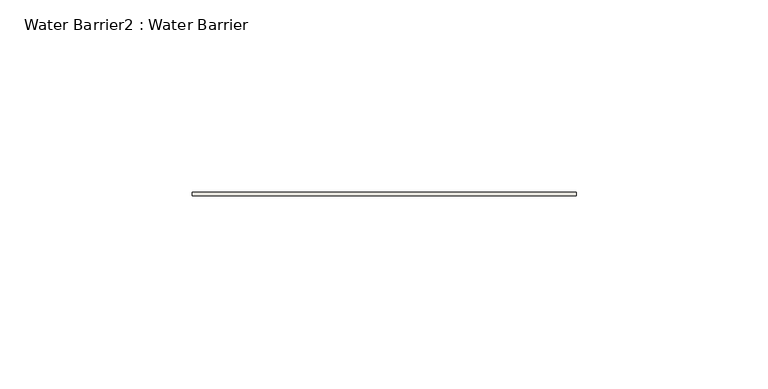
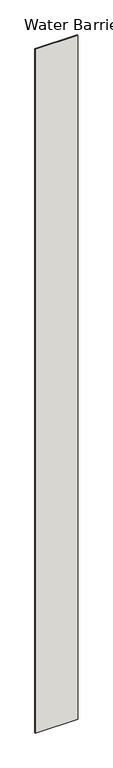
"""IFC4 building model written with IfcOpenShell, lengths in millimetres: wall geometry, Water Barrier2 : Water Barrier."""

import ifcopenshell
import ifcopenshell.guid

model = None  # the IFC model being written
_history = None  # IfcOwnerHistory: only IFC2X3 demands one
_inside = {}  # id of a spatial element -> (the spatial element, [elements in it])
_under = {}  # id of a project, library or spatial element -> (it, [spatial elements below it])
_declared = {}  # id of a project -> (the project, [libraries it declares])
_typed = {}  # id of a type object -> (the type object, [elements of that type])
_made_of = {}  # id of a material, layer set ... -> (it, [elements and type objects made of it])


def new_model(schema):
    """Start an empty IFC model of exactly this schema.

    Asked for "IFC4X3", IfcOpenShell would pick the latest addendum, in which some entities
    have other attributes; the version numbers below select the first issue.
    IFC2X3 requires an IfcOwnerHistory on every rooted entity: one is made here for all.
    """
    global model, _history
    if schema == "IFC4X3":
        model = ifcopenshell.file(schema_version=(4, 3, 0, 0))
    else:
        model = ifcopenshell.file(schema=schema)
    _inside.clear()
    _under.clear()
    _declared.clear()
    _typed.clear()
    _made_of.clear()
    _history = None
    if model.schema == "IFC2X3":
        org = make("IfcOrganization", Name="unknown")
        user = make(
            "IfcPersonAndOrganization",
            ThePerson=make("IfcPerson", FamilyName="unknown"),
            TheOrganization=org,
        )
        app = make(
            "IfcApplication",
            ApplicationDeveloper=org,
            Version="unknown",
            ApplicationFullName="unknown",
            ApplicationIdentifier="unknown",
        )
        _history = make(
            "IfcOwnerHistory",
            OwningUser=user,
            OwningApplication=app,
            ChangeAction="ADDED",
            CreationDate=0,
        )
    return model


def make(cls, **values):
    """One entity of the class cls with the attributes given. An attribute that is None is left unset."""
    return model.create_entity(
        cls, **{name: value for name, value in values.items() if value is not None}
    )


def rooted(cls, **values):
    """An entity with a GlobalId (a new one), such as an element, a storey or a relation."""
    return make(cls, GlobalId=ifcopenshell.guid.new(), OwnerHistory=_history, **values)


def si_unit(unit_type, name, prefix=None):
    """IfcSIUnit, for example si_unit("LENGTHUNIT", "METRE", prefix="MILLI")."""
    return make("IfcSIUnit", UnitType=unit_type, Prefix=prefix, Name=name)


def assignment(units):
    """IfcUnitAssignment: the units of a project."""
    return None if units is None else make("IfcUnitAssignment", Units=units)


def point(xyz):
    """IfcCartesianPoint."""
    return None if xyz is None else make("IfcCartesianPoint", Coordinates=xyz)


def direction(xyz):
    """IfcDirection."""
    return None if xyz is None else make("IfcDirection", DirectionRatios=xyz)


def frame(location, z_axis=None, x_axis=None):
    """IfcAxis2Placement3D, a coordinate frame: its origin and axes. An axis left out is left unset."""
    return make(
        "IfcAxis2Placement3D",
        Location=point(location),
        Axis=direction(z_axis),
        RefDirection=direction(x_axis),
    )


def origin():
    """The frame at (0, 0, 0) with its axes left unset."""
    return frame((0.0, 0.0, 0.0))


def origin_with_axes():
    """The frame at (0, 0, 0) with the z axis (0, 0, 1) and the x axis (1, 0, 0) written out."""
    return frame((0.0, 0.0, 0.0), z_axis=(0.0, 0.0, 1.0), x_axis=(1.0, 0.0, 0.0))


def place(relative_to, where):
    """IfcLocalPlacement: puts the frame where relative to a parent placement (None: the world)."""
    return make(
        "IfcLocalPlacement", PlacementRelTo=relative_to, RelativePlacement=where
    )


def context(
    kind, dimensions, precision=None, world=None, true_north=None, identifier=None
):
    """IfcGeometricRepresentationContext, for example the 3D "Model" context."""
    return make(
        "IfcGeometricRepresentationContext",
        ContextIdentifier=identifier,
        ContextType=kind,
        CoordinateSpaceDimension=dimensions,
        Precision=precision,
        WorldCoordinateSystem=world,
        TrueNorth=true_north,
    )


def project(units=None, contexts=None):
    """IfcProject with its units and contexts."""
    return rooted(
        "IfcProject",
        Name="project",
        RepresentationContexts=contexts,
        UnitsInContext=assignment(units),
    )


def spatial(cls, under=None, at=None, **own):
    """A site, building, storey or space (cls), placed at a placement, below another one or the project."""
    s = rooted(cls, ObjectPlacement=at, **own)
    if under is not None:
        _under.setdefault(under.id(), (under, []))[1].append(s)
    return s


def polyline(points):
    """IfcPolyline through the points."""
    return make("IfcPolyline", Points=[point(p) for p in points])


def outline(outer, holes=None, kind="AREA"):
    """IfcArbitraryClosedProfileDef: a profile drawn as a closed curve; with holes, ...WithVoids."""
    if holes is None:
        return make("IfcArbitraryClosedProfileDef", ProfileType=kind, OuterCurve=outer)
    return make(
        "IfcArbitraryProfileDefWithVoids",
        ProfileType=kind,
        OuterCurve=outer,
        InnerCurves=holes,
    )


def extrude(swept, where, along, depth):
    """IfcExtrudedAreaSolid: the profile swept, set in the frame where, extruded along a direction by depth."""
    return make(
        "IfcExtrudedAreaSolid",
        SweptArea=swept,
        Position=where,
        ExtrudedDirection=direction(along),
        Depth=depth,
    )


def shape(context_of_items, identifier, shape_type, items):
    """IfcShapeRepresentation: the items that make up one representation, for example the "Body"."""
    return make(
        "IfcShapeRepresentation",
        ContextOfItems=context_of_items,
        RepresentationIdentifier=identifier,
        RepresentationType=shape_type,
        Items=items,
    )


def source(mapping_origin, context_of_items, identifier, shape_type, items):
    """IfcRepresentationMap: a shape defined once, which mapped items show again and again."""
    return make(
        "IfcRepresentationMap",
        MappingOrigin=mapping_origin,
        MappedRepresentation=shape(context_of_items, identifier, shape_type, items),
    )


def transform(
    local_origin,
    x_axis=None,
    y_axis=None,
    z_axis=None,
    scale=None,
    scale2=None,
    scale3=None,
    uniform=True,
):
    """IfcCartesianTransformationOperator3D, or its non-uniform kind. x_axis, y_axis, z_axis: its Axis1, 2, 3."""
    if uniform:
        return make(
            "IfcCartesianTransformationOperator3D",
            Axis1=direction(x_axis),
            Axis2=direction(y_axis),
            LocalOrigin=point(local_origin),
            Scale=scale,
            Axis3=direction(z_axis),
        )
    return make(
        "IfcCartesianTransformationOperator3DnonUniform",
        Axis1=direction(x_axis),
        Axis2=direction(y_axis),
        LocalOrigin=point(local_origin),
        Scale=scale,
        Axis3=direction(z_axis),
        Scale2=scale2,
        Scale3=scale3,
    )


def mapped(mapping_source, mapping_target):
    """IfcMappedItem: shows the shape of a source again, moved by a transform."""
    return make(
        "IfcMappedItem", MappingSource=mapping_source, MappingTarget=mapping_target
    )


def made_of(thing, what):
    """Note that an element or type object is made of a material, layer set ...; save() writes the relation."""
    if what is not None:
        _made_of.setdefault(what.id(), (what, []))[1].append(thing)
    return thing


def element(
    cls,
    number,
    at=None,
    inside=None,
    cuts=None,
    type_object=None,
    material=None,
    context=None,
    identifier="Body",
    shape_type=None,
    held_by="IfcProductDefinitionShape",
    body=None,
    shapes=None,
    **own,
):
    """One element of the class cls, such as IfcWall. Its Tag is "e" and its number.

    at: its placement. inside: the storey or other place that contains it. cuts: it is an
    opening in that element (IfcRelVoidsElement). A single representation is given by context,
    identifier, shape_type and body (its items); several are given by shapes. held_by: the class
    of the entity that holds the representations. save() writes the other relations.
    """
    e = rooted(cls, Tag="e%d" % number, ObjectPlacement=at, **own)
    if body is not None:
        shapes = [shape(context, identifier, shape_type, body)]
    if shapes is not None:
        e.Representation = make(held_by, Representations=shapes)
    if inside is not None:
        _inside.setdefault(inside.id(), (inside, []))[1].append(e)
    if cuts is not None:
        rooted(
            "IfcRelVoidsElement", RelatingBuildingElement=cuts, RelatedOpeningElement=e
        )
    if type_object is not None:
        _typed.setdefault(type_object.id(), (type_object, []))[1].append(e)
    return made_of(e, material)


def aggregate(whole, parts):
    """IfcRelAggregates: a whole, such as a stair, and the parts it consists of."""
    return rooted("IfcRelAggregates", RelatingObject=whole, RelatedObjects=parts)


def save(model, path):
    """Write the relations noted so far, then the file.

    IfcRelAggregates (storeys below a building ...), IfcRelContainedInSpatialStructure (elements
    in a storey), IfcRelDefinesByType, IfcRelAssociatesMaterial and IfcRelDeclares: one each for
    every whole, place, type object, material and project.
    """
    for whole, parts in _under.values():
        aggregate(whole, parts)
    for where, things in _inside.values():
        rooted(
            "IfcRelContainedInSpatialStructure",
            RelatedElements=things,
            RelatingStructure=where,
        )
    for kind, things in _typed.values():
        rooted("IfcRelDefinesByType", RelatedObjects=things, RelatingType=kind)
    for what, things in _made_of.values():
        rooted("IfcRelAssociatesMaterial", RelatedObjects=things, RelatingMaterial=what)
    for by, libraries in _declared.values():
        rooted("IfcRelDeclares", RelatingContext=by, RelatedDefinitions=libraries)
    model.write(path)


def water_barrier2_water_barrier_0007fd00(model_context):
    return source(origin(), model_context, "Body", "SweptSolid", [
        extrude(outline(polyline([(20759.7747715, 14986.3863455), (20659.7747715, 14986.3863455), (20659.7747715, 14987.3863455), (20759.7747715, 14987.3863455), (20759.7747715, 14986.3863455)])), origin_with_axes(), (0.0, 0.0, 1.0), 1700.0),
    ])


if __name__ == "__main__":
    model = new_model("IFC4")
    model_context = context("Model", 3, world=origin())
    ifc_project = project(units=[si_unit("LENGTHUNIT", "METRE", prefix="MILLI")], contexts=[model_context])
    site = spatial("IfcSite", under=ifc_project)
    building = spatial("IfcBuilding", under=site)
    placement = place(None, origin())
    water_barrier2_water_barrier_shape = water_barrier2_water_barrier_0007fd00(model_context)
    element("IfcWall", 1, ObjectType="Water Barrier2 : Water Barrier", at=placement, inside=building, context=model_context, shape_type="MappedRepresentation", body=[
        mapped(water_barrier2_water_barrier_shape, transform((0.0, 0.0, 0.0), x_axis=(1.0, 0.0, 0.0), y_axis=(0.0, 1.0, 0.0), z_axis=(0.0, 0.0, 1.0))),
    ])
    save(model, "model.ifc")
